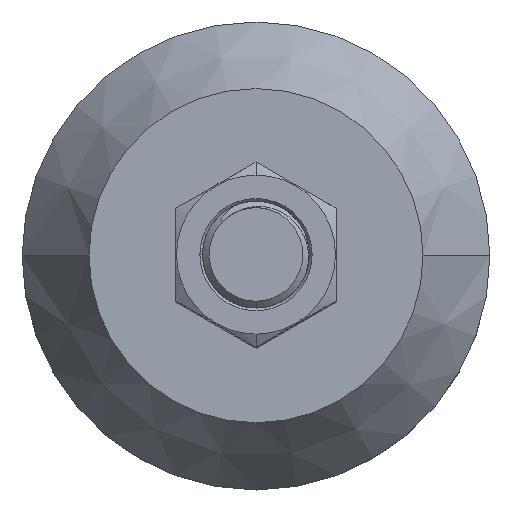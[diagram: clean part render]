
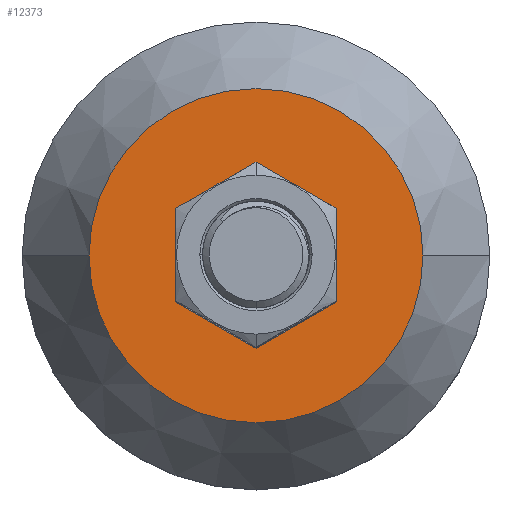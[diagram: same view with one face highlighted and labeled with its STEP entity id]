
A CAD part, top view. The second image highlights one B-rep face of the part: STEP entity #12373.
In plain terms, the highlighted planar face has unit normal (0, 0, 1).
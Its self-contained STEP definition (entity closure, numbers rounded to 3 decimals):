
#392 = PLANE ( 'NONE',  #9913 ) ;
#745 = DIRECTION ( 'NONE',  ( 0., 0., -1. ) ) ;
#1347 = AXIS2_PLACEMENT_3D ( 'NONE', #11949, #5746, #13007 ) ;
#1442 = CARTESIAN_POINT ( 'NONE',  ( 25., 0., 38. ) ) ;
#2207 = ORIENTED_EDGE ( 'NONE', *, *, #8477, .F. ) ;
#3046 = EDGE_CURVE ( 'NONE', #3758, #4094, #12934, .T. ) ;
#3534 = DIRECTION ( 'NONE',  ( -1., 0., 0. ) ) ;
#3758 = VERTEX_POINT ( 'NONE', #13045 ) ;
#4076 = CARTESIAN_POINT ( 'NONE',  ( 25., 0., 38. ) ) ;
#4094 = VERTEX_POINT ( 'NONE', #4076 ) ;
#5027 = CIRCLE ( 'NONE', #9769, 25. ) ;
#5746 = DIRECTION ( 'NONE',  ( 0., 0., -1. ) ) ;
#6953 = CARTESIAN_POINT ( 'NONE',  ( 0., 0., 38. ) ) ;
#7989 = DIRECTION ( 'NONE',  ( -1., 0., 0. ) ) ;
#8477 = EDGE_CURVE ( 'NONE', #4094, #3758, #5027, .T. ) ;
#9769 = AXIS2_PLACEMENT_3D ( 'NONE', #6953, #745, #7989 ) ;
#9913 = AXIS2_PLACEMENT_3D ( 'NONE', #1442, #11754, #3534 ) ;
#10499 = ORIENTED_EDGE ( 'NONE', *, *, #3046, .F. ) ;
#11476 = EDGE_LOOP ( 'NONE', ( #10499, #2207 ) ) ;
#11754 = DIRECTION ( 'NONE',  ( 0., 0., -1. ) ) ;
#11949 = CARTESIAN_POINT ( 'NONE',  ( 0., 0., 38. ) ) ;
#12373 = ADVANCED_FACE ( 'NONE', ( #13060 ), #392, .F. ) ;
#12934 = CIRCLE ( 'NONE', #1347, 25. ) ;
#13007 = DIRECTION ( 'NONE',  ( -1., 0., 0. ) ) ;
#13045 = CARTESIAN_POINT ( 'NONE',  ( -25., 0., 38. ) ) ;
#13060 = FACE_OUTER_BOUND ( 'NONE', #11476, .T. ) ;
